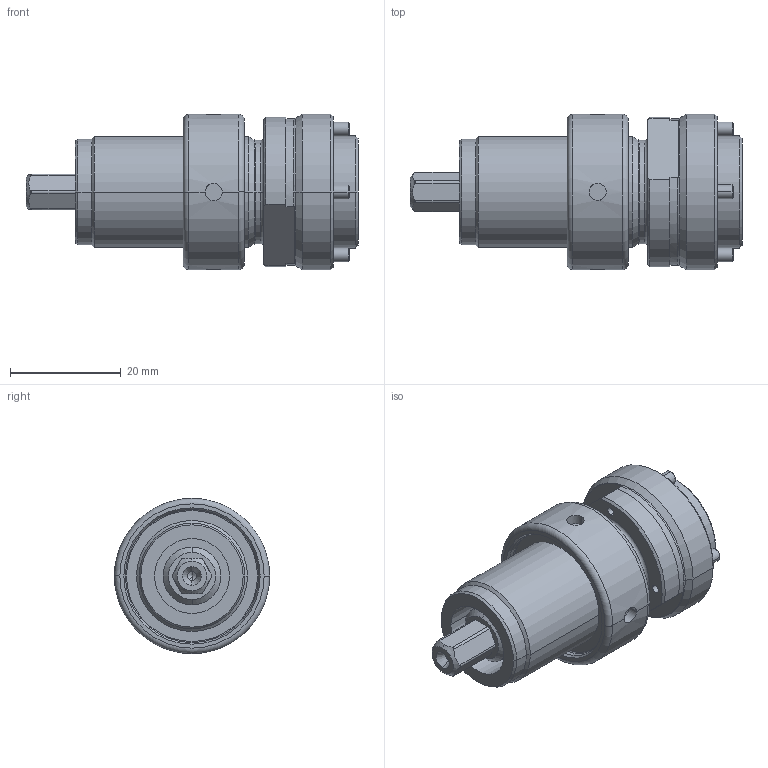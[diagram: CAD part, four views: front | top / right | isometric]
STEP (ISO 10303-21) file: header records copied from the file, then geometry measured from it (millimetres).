
FILE_DESCRIPTION((''),'2;1');
FILE_NAME('3602D96022','2023-09-15T19:25:19',('PPN2KOR'),(''),'CREO PARAMETRIC BY PTC INC, 2021072','CREO PARAMETRIC BY PTC INC, 2021072','');
FILE_SCHEMA(('AUTOMOTIVE_DESIGN { 1 0 10303 214 1 1 1 1 }'));
Length unit declared in the file: millimetre
Products named in the file (1): 3602D96022
Bounding box: 59.83 x 28 x 28 mm (x, y, z)
Volume: 16827.1 mm3; surface area: 9640.6 mm2
Topology: 1 solids, 1 shells, 206 faces, 466 edges, 284 vertices
Faces by surface type: cylinder 90, plane 56, cone 46, torus 14
Entity records: 9225 total; most frequent: CARTESIAN_POINT 1518, DIRECTION 1076, ORIENTED_EDGE 924, PRESENTATION_STYLE_ASSIGNMENT 669, STYLED_ITEM 463, CURVE_STYLE 462, EDGE_CURVE 462, AXIS2_PLACEMENT_3D 446
